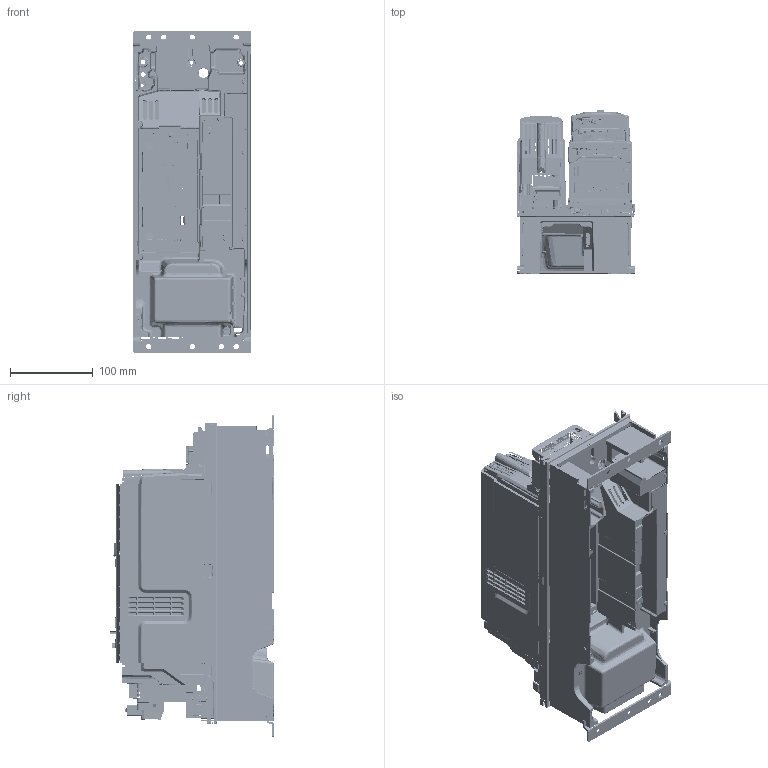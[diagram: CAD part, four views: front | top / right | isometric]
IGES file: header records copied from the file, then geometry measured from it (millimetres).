
Start section:  PTC IGES file: unim05_without_covers.igs
Global section: file name: unim05_without_covers.igs; native system: Pro/ENGINEER by Parametric Technology Corporation; preprocessor: 2011490; author: KMandokar; organization: Unknown; date: 20130906.142152; units: millimetre
Bounding box: 144 x 198.5 x 391 mm (x, y, z)
Surface area: 942488.1 mm2 (no closed solid volume)
Topology: 0 solids, 1504 shells, 6058 faces, 47336 edges, 42175 vertices
Faces by surface type: bspline 6058
